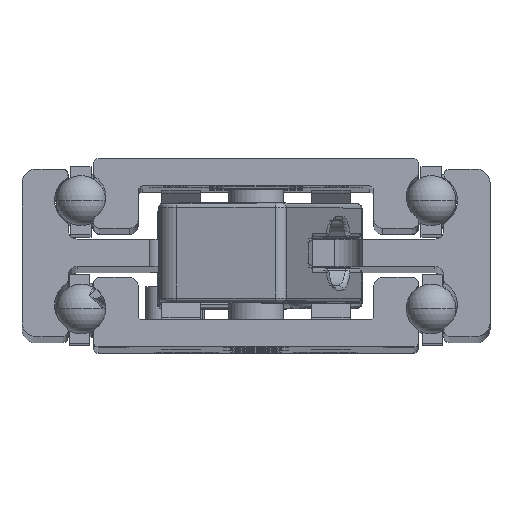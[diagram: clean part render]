
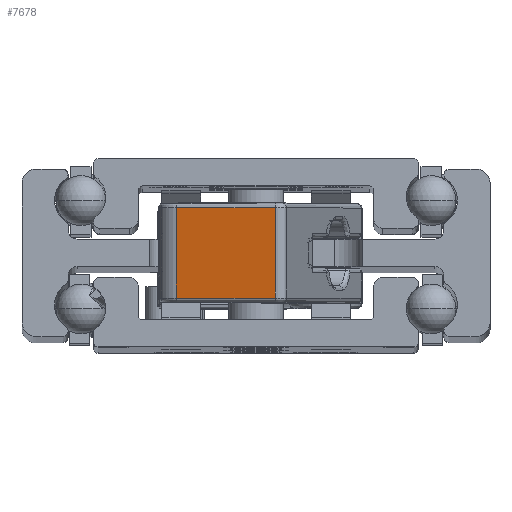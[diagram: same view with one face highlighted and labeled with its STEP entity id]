
A CAD part, top view. The second image highlights one B-rep face of the part: STEP entity #7678.
In plain terms, the highlighted planar face has unit normal (-0.225, 0, 0.974) as drawn and (-1, 0, 0) by its records, which use the part's own axes.
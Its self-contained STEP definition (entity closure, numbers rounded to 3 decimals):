
#798 = ORIENTED_EDGE ( 'NONE', *, *, #27406, .T. ) ;
#1905 = DIRECTION ( 'NONE',  ( 0., 0., 1. ) ) ;
#1919 = CARTESIAN_POINT ( 'NONE',  ( -37., 8., 5.4 ) ) ;
#2391 = VECTOR ( 'NONE', #14651, 1000. ) ;
#3158 = CARTESIAN_POINT ( 'NONE',  ( -37., 8., 4.9 ) ) ;
#4514 = CARTESIAN_POINT ( 'NONE',  ( -37., -3., 4.9 ) ) ;
#4754 = LINE ( 'NONE', #26237, #20599 ) ;
#5120 = VERTEX_POINT ( 'NONE', #4514 ) ;
#6062 = AXIS2_PLACEMENT_3D ( 'NONE', #18620, #27318, #25711 ) ;
#6240 = LINE ( 'NONE', #1919, #2391 ) ;
#6555 = CARTESIAN_POINT ( 'NONE',  ( -37., 8., 4.9 ) ) ;
#7346 = EDGE_CURVE ( 'NONE', #18474, #13003, #8753, .T. ) ;
#7678 = ADVANCED_FACE ( 'NONE', ( #16889 ), #18481, .F. ) ;
#8109 = EDGE_CURVE ( 'NONE', #17019, #18474, #6240, .T. ) ;
#8457 = DIRECTION ( 'NONE',  ( 0., 1., 0. ) ) ;
#8753 = LINE ( 'NONE', #10490, #21311 ) ;
#8814 = ORIENTED_EDGE ( 'NONE', *, *, #13504, .T. ) ;
#10490 = CARTESIAN_POINT ( 'NONE',  ( -37., -4., -4.9 ) ) ;
#13003 = VERTEX_POINT ( 'NONE', #23111 ) ;
#13075 = ORIENTED_EDGE ( 'NONE', *, *, #8109, .T. ) ;
#13504 = EDGE_CURVE ( 'NONE', #13003, #5120, #4754, .T. ) ;
#14651 = DIRECTION ( 'NONE',  ( 0., 0., -1. ) ) ;
#16889 = FACE_OUTER_BOUND ( 'NONE', #27525, .T. ) ;
#17019 = VERTEX_POINT ( 'NONE', #3158 ) ;
#17305 = LINE ( 'NONE', #6555, #19573 ) ;
#17448 = DIRECTION ( 'NONE',  ( 0., -1., 0. ) ) ;
#18474 = VERTEX_POINT ( 'NONE', #25137 ) ;
#18481 = PLANE ( 'NONE',  #6062 ) ;
#18620 = CARTESIAN_POINT ( 'NONE',  ( -37., -4., 5.4 ) ) ;
#19573 = VECTOR ( 'NONE', #8457, 1000. ) ;
#20599 = VECTOR ( 'NONE', #1905, 1000. ) ;
#21311 = VECTOR ( 'NONE', #17448, 1000. ) ;
#21827 = ORIENTED_EDGE ( 'NONE', *, *, #7346, .T. ) ;
#23111 = CARTESIAN_POINT ( 'NONE',  ( -37., -3., -4.9 ) ) ;
#25137 = CARTESIAN_POINT ( 'NONE',  ( -37., 8., -4.9 ) ) ;
#25711 = DIRECTION ( 'NONE',  ( 0., 1., 0. ) ) ;
#26237 = CARTESIAN_POINT ( 'NONE',  ( -37., -3., 5.4 ) ) ;
#27318 = DIRECTION ( 'NONE',  ( 1., 0., 0. ) ) ;
#27406 = EDGE_CURVE ( 'NONE', #5120, #17019, #17305, .T. ) ;
#27525 = EDGE_LOOP ( 'NONE', ( #13075, #21827, #8814, #798 ) ) ;
